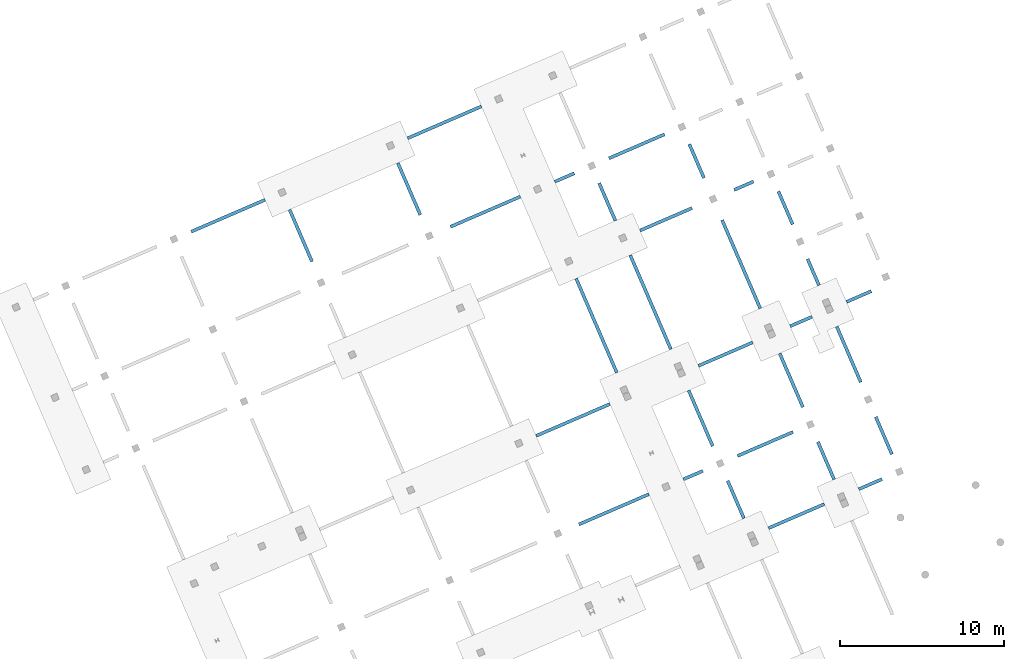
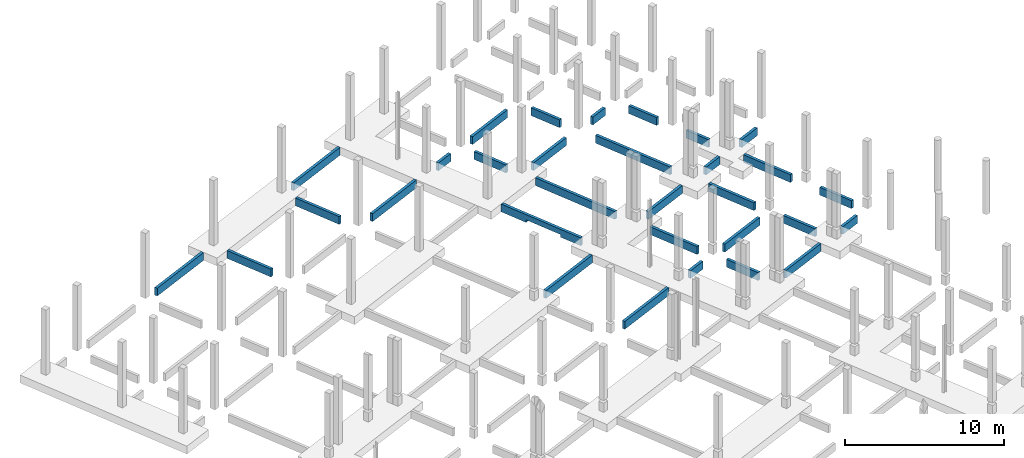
# One storey, part 10 of 11: 31 beams.
"""IFC4 building model written with IfcOpenShell, lengths in metres."""

from ifc_helpers import new_model, entity, si_unit, converted_unit, derived_unit, direction, frame, origin, place, context, subcontext, project, spatial, indexed_curve, outline, extrude, source, transform, mapped, material, type_object, type_shapes, element, save


model = new_model("IFC4")

# Units and contexts
model_context = context("Model", 3, precision=1e-05, world=origin(), true_north=direction((6.12323399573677e-17, 1.0)))
body_context = subcontext(model_context, "Body", "Model", "MODEL_VIEW")
ifc_project = project(units=[si_unit("LENGTHUNIT", "METRE"), si_unit("AREAUNIT", "SQUARE_METRE"), si_unit("VOLUMEUNIT", "CUBIC_METRE"), converted_unit("PLANEANGLEUNIT", "DEGREE", entity("IfcPlaneAngleMeasure", 0.0174532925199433), si_unit("PLANEANGLEUNIT", "RADIAN"), dimensions=[0, 0, 0, 0, 0, 0, 0]), si_unit("MASSUNIT", "GRAM", prefix="KILO"), derived_unit("MOMENTOFINERTIAUNIT", [(si_unit("LENGTHUNIT", "METRE"), 4)]), derived_unit("LINEARFORCEUNIT", [(si_unit("MASSUNIT", "GRAM", prefix="KILO"), 1), (si_unit("TIMEUNIT", "SECOND"), -2)]), derived_unit("WARPINGCONSTANTUNIT", [(si_unit("LENGTHUNIT", "METRE"), 6)]), derived_unit("THERMALTRANSMITTANCEUNIT", [(si_unit("MASSUNIT", "GRAM", prefix="KILO"), 1), (si_unit("THERMODYNAMICTEMPERATUREUNIT", "KELVIN"), -1), (si_unit("TIMEUNIT", "SECOND"), -3)]), derived_unit("USERDEFINED", [(si_unit("MASSUNIT", "GRAM", prefix="KILO"), 1), (si_unit("TIMEUNIT", "SECOND"), -2), (si_unit("THERMODYNAMICTEMPERATUREUNIT", "KELVIN"), -1)]), derived_unit("THERMALRESISTANCEUNIT", [(si_unit("MASSUNIT", "GRAM", prefix="KILO"), -1), (si_unit("TIMEUNIT", "SECOND"), 3), (si_unit("THERMODYNAMICTEMPERATUREUNIT", "KELVIN"), 1)])], contexts=[model_context])

# Site, building, storey
site_placement = place(None, origin())
site = spatial("IfcSite", under=ifc_project, at=site_placement, Name="Default", CompositionType="ELEMENT")
building_placement = place(site_placement, frame((12.6613425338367, -82.5732315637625, 317.15), z_axis=(0.0, 0.0, 1.0), x_axis=(-0.396377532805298, 0.918087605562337, 0.0)))
building = spatial("IfcBuilding", under=site, at=building_placement, Name="CESFAM Coyhaique", CompositionType="ELEMENT")
storey_placement = place(building_placement, frame((0.0, 0.0, -0.950000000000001)))
storey = spatial("IfcBuildingStorey", under=building, at=storey_placement, Name="d_Fundaciones", CompositionType="ELEMENT", Elevation=-0.950000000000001)

# Beams
ifc_material = material(Name="HA")
beam_type_1 = type_object("IfcBeamType", Name="M_Concrete-Rectangular Beam:200 x 600mm", PredefinedType="BEAM", material=ifc_material)
shared_shape_1 = source(origin(), body_context, "Body", "SweptSolid", [
    extrude(outline(indexed_curve([(-0.100000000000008, -0.3), (0.0999999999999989, -0.3), (0.0999999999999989, 0.3), (-0.100000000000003, 0.3), (-0.100000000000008, -0.3)], self_intersect=False)), frame((28.7688534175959, -10.4471495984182, -1.25), z_axis=(0.0, 1.0, 0.0), x_axis=(-1.0, 0.0, 0.0)), (0.0, 0.0, 1.0), 4.65000000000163),
])
type_shapes(beam_type_1, [shared_shape_1])
beam_1_placement = place(storey_placement, frame((0.0, 0.0, 0.950000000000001)))
element("IfcBeam", 1, at=beam_1_placement, inside=storey, type_object=beam_type_1, Name="M_Concrete-Rectangular Beam:200 x 600mm", ObjectType="M_Concrete-Rectangular Beam:200 x 600mm", PredefinedType="BEAM", context=body_context, shape_type="MappedRepresentation", body=[
    mapped(shared_shape_1, transform((0.0, 0.0, 0.0), scale=1.0)),
])
beam_type_2 = type_object("IfcBeamType", Name="M_Concrete-Rectangular Beam:200 x 600mm", PredefinedType="BEAM", material=ifc_material)
shared_shape_2 = source(origin(), body_context, "Body", "SweptSolid", [
    extrude(outline(indexed_curve([(-0.100000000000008, -0.3), (0.0999999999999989, -0.3), (0.100000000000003, 0.3), (-0.100000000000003, 0.3), (-0.100000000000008, -0.3)], self_intersect=False)), frame((34.768853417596, -10.4471495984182, -1.25), z_axis=(0.0, 1.0, 0.0), x_axis=(-1.0, 0.0, 0.0)), (0.0, 0.0, 1.0), 4.90000000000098),
])
type_shapes(beam_type_2, [shared_shape_2])
beam_2_placement = place(storey_placement, frame((0.0, 0.0, 0.950000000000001)))
element("IfcBeam", 2, at=beam_2_placement, inside=storey, type_object=beam_type_2, Name="M_Concrete-Rectangular Beam:200 x 600mm", ObjectType="M_Concrete-Rectangular Beam:200 x 600mm", PredefinedType="BEAM", context=body_context, shape_type="MappedRepresentation", body=[
    mapped(shared_shape_2, transform((0.0, 0.0, 0.0), scale=1.0)),
])
beam_type_3 = type_object("IfcBeamType", Name="M_Concrete-Rectangular Beam:200 x 600mm", PredefinedType="BEAM", material=ifc_material)
shared_shape_3 = source(origin(), body_context, "Body", "SweptSolid", [
    extrude(outline(indexed_curve([(-0.100000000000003, -0.3), (0.0999999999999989, -0.3), (0.100000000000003, 0.3), (-0.100000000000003, 0.3), (-0.100000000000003, -0.3)], self_intersect=False)), frame((28.7688534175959, -14.0471495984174, -1.25), z_axis=(0.0, 1.0, 0.0), x_axis=(-1.0, 0.0, 0.0)), (0.0, 0.0, 1.0), 1.30000000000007),
])
type_shapes(beam_type_3, [shared_shape_3])
beam_3_placement = place(storey_placement, frame((0.0, 0.0, 0.950000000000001)))
element("IfcBeam", 3, at=beam_3_placement, inside=storey, type_object=beam_type_3, Name="M_Concrete-Rectangular Beam:200 x 600mm", ObjectType="M_Concrete-Rectangular Beam:200 x 600mm", PredefinedType="BEAM", context=body_context, shape_type="MappedRepresentation", body=[
    mapped(shared_shape_3, transform((0.0, 0.0, 0.0), scale=1.0)),
])
beam_type_4 = type_object("IfcBeamType", Name="M_Concrete-Rectangular Beam:200 x 600mm", PredefinedType="BEAM", material=ifc_material)
shared_shape_4 = source(origin(), body_context, "Body", "SweptSolid", [
    extrude(outline(indexed_curve([(-0.3, -0.100000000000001), (0.3, -0.100000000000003), (0.3, 0.100000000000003), (-0.3, 0.100000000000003), (-0.3, -0.100000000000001)], self_intersect=False)), frame((25.1188534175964, -15.1971495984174, -1.25), z_axis=(1.0, 0.0, 0.0), x_axis=(0.0, 0.0, -1.0)), (0.0, 0.0, 1.0), 2.49999999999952),
])
type_shapes(beam_type_4, [shared_shape_4])
beam_4_placement = place(storey_placement, frame((0.0, 0.0, 0.950000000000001)))
element("IfcBeam", 4, at=beam_4_placement, inside=storey, type_object=beam_type_4, Name="M_Concrete-Rectangular Beam:200 x 600mm", ObjectType="M_Concrete-Rectangular Beam:200 x 600mm", PredefinedType="BEAM", context=body_context, shape_type="MappedRepresentation", body=[
    mapped(shared_shape_4, transform((0.0, 0.0, 0.0), scale=1.0)),
])
beam_type_5 = type_object("IfcBeamType", Name="M_Concrete-Rectangular Beam:200 x 600mm", PredefinedType="BEAM", material=ifc_material)
shared_shape_5 = source(origin(), body_context, "Body", "SweptSolid", [
    extrude(outline(indexed_curve([(-0.3, -0.100000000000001), (0.3, -0.100000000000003), (0.3, 0.100000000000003), (-0.3, 0.100000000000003), (-0.3, -0.100000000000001)], self_intersect=False)), frame((29.9188534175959, -15.1971495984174, -1.25), z_axis=(1.0, 0.0, 0.0), x_axis=(0.0, 0.0, -1.0)), (0.0, 0.0, 1.0), 3.70000000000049),
])
type_shapes(beam_type_5, [shared_shape_5])
beam_5_placement = place(storey_placement, frame((0.0, 0.0, 0.950000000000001)))
element("IfcBeam", 5, at=beam_5_placement, inside=storey, type_object=beam_type_5, Name="M_Concrete-Rectangular Beam:200 x 600mm", ObjectType="M_Concrete-Rectangular Beam:200 x 600mm", PredefinedType="BEAM", context=body_context, shape_type="MappedRepresentation", body=[
    mapped(shared_shape_5, transform((0.0, 0.0, 0.0), scale=1.0)),
])
beam_type_6 = type_object("IfcBeamType", Name="M_Concrete-Rectangular Beam:200 x 600mm", PredefinedType="BEAM", material=ifc_material)
shared_shape_6 = source(origin(), body_context, "Body", "SweptSolid", [
    extrude(outline(indexed_curve([(-0.0999999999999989, -0.3), (0.100000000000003, -0.3), (0.100000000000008, 0.3), (-0.0999999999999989, 0.3), (-0.0999999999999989, -0.3)], self_intersect=False)), frame((28.7688534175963, -20.047149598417, -1.25), z_axis=(0.0, 1.0, 0.0), x_axis=(-1.0, 0.0, 0.0)), (0.0, 0.0, 1.0), 3.69999999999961),
])
type_shapes(beam_type_6, [shared_shape_6])
beam_6_placement = place(storey_placement, frame((0.0, 0.0, 0.950000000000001)))
element("IfcBeam", 6, at=beam_6_placement, inside=storey, type_object=beam_type_6, Name="M_Concrete-Rectangular Beam:200 x 600mm", ObjectType="M_Concrete-Rectangular Beam:200 x 600mm", PredefinedType="BEAM", context=body_context, shape_type="MappedRepresentation", body=[
    mapped(shared_shape_6, transform((0.0, 0.0, 0.0), scale=1.0)),
])
beam_type_7 = type_object("IfcBeamType", Name="M_Concrete-Rectangular Beam:200 x 600mm", PredefinedType="BEAM", material=ifc_material)
shared_shape_7 = source(origin(), body_context, "Body", "SweptSolid", [
    extrude(outline(indexed_curve([(-0.0999999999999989, -0.3), (0.100000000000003, -0.3), (0.100000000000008, 0.3), (-0.0999999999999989, 0.3), (-0.0999999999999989, -0.3)], self_intersect=False)), frame((23.9688534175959, -16.3471495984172, -1.25), z_axis=(0.0, -1.0, 0.0), x_axis=(-1.0, 0.0, 0.0)), (0.0, 0.0, 1.0), 3.70000000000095),
])
type_shapes(beam_type_7, [shared_shape_7])
beam_7_placement = place(storey_placement, frame((0.0, 0.0, 0.950000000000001)))
element("IfcBeam", 7, at=beam_7_placement, inside=storey, type_object=beam_type_7, Name="M_Concrete-Rectangular Beam:200 x 600mm", ObjectType="M_Concrete-Rectangular Beam:200 x 600mm", PredefinedType="BEAM", context=body_context, shape_type="MappedRepresentation", body=[
    mapped(shared_shape_7, transform((0.0, 0.0, 0.0), scale=1.0)),
])
beam_type_8 = type_object("IfcBeamType", Name="M_Concrete-Rectangular Beam:200 x 600mm", PredefinedType="BEAM", material=ifc_material)
shared_shape_8 = source(origin(), body_context, "Body", "SweptSolid", [
    extrude(outline(indexed_curve([(-0.0999999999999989, -0.3), (0.100000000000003, -0.3), (0.100000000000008, 0.3), (-0.0999999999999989, 0.3), (-0.0999999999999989, -0.3)], self_intersect=False)), frame((34.768853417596, -16.3471495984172, -1.25), z_axis=(0.0, -1.0, 0.0), x_axis=(-1.0, 0.0, 0.0)), (0.0, 0.0, 1.0), 3.60000015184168),
])
type_shapes(beam_type_8, [shared_shape_8])
beam_8_placement = place(storey_placement, frame((0.0, 0.0, 0.950000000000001)))
element("IfcBeam", 8, at=beam_8_placement, inside=storey, type_object=beam_type_8, Name="M_Concrete-Rectangular Beam:200 x 600mm", ObjectType="M_Concrete-Rectangular Beam:200 x 600mm", PredefinedType="BEAM", context=body_context, shape_type="MappedRepresentation", body=[
    mapped(shared_shape_8, transform((0.0, 0.0, 0.0), scale=1.0)),
])
beam_type_9 = type_object("IfcBeamType", Name="M_Concrete-Rectangular Beam:200 x 600mm", PredefinedType="BEAM", material=ifc_material)
shared_shape_9 = source(origin(), body_context, "Body", "SweptSolid", [
    extrude(outline(indexed_curve([(-0.3, -0.0999999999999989), (0.3, -0.100000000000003), (0.3, 0.100000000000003), (-0.3, 0.100000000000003), (-0.3, -0.0999999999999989)], self_intersect=False)), frame((29.9188534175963, -21.197149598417, -1.25), z_axis=(1.0, 0.0, 0.0), x_axis=(0.0, 0.0, -1.0)), (0.0, 0.0, 1.0), 3.57500000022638),
])
type_shapes(beam_type_9, [shared_shape_9])
beam_9_placement = place(storey_placement, frame((0.0, 0.0, 0.950000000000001)))
element("IfcBeam", 9, at=beam_9_placement, inside=storey, type_object=beam_type_9, Name="M_Concrete-Rectangular Beam:200 x 600mm", ObjectType="M_Concrete-Rectangular Beam:200 x 600mm", PredefinedType="BEAM", context=body_context, shape_type="MappedRepresentation", body=[
    mapped(shared_shape_9, transform((0.0, 0.0, 0.0), scale=1.0)),
])
beam_type_10 = type_object("IfcBeamType", Name="M_Concrete-Rectangular Beam:200 x 600mm", PredefinedType="BEAM", material=ifc_material)
shared_shape_10 = source(origin(), body_context, "Body", "SweptSolid", [
    extrude(outline(indexed_curve([(-0.3, -0.0999999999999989), (0.3, -0.0999999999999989), (0.3, 0.100000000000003), (-0.3, 0.100000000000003), (-0.3, -0.0999999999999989)], self_intersect=False)), frame((25.1188534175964, -21.197149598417, -1.25), z_axis=(1.0, 0.0, 0.0), x_axis=(0.0, 0.0, -1.0)), (0.0, 0.0, 1.0), 2.49999999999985),
])
type_shapes(beam_type_10, [shared_shape_10])
beam_10_placement = place(storey_placement, frame((0.0, 0.0, 0.950000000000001)))
element("IfcBeam", 10, at=beam_10_placement, inside=storey, type_object=beam_type_10, Name="M_Concrete-Rectangular Beam:200 x 600mm", ObjectType="M_Concrete-Rectangular Beam:200 x 600mm", PredefinedType="BEAM", context=body_context, shape_type="MappedRepresentation", body=[
    mapped(shared_shape_10, transform((0.0, 0.0, 0.0), scale=1.0)),
])
beam_type_11 = type_object("IfcBeamType", Name="M_Concrete-Rectangular Beam:200 x 600mm", PredefinedType="BEAM", material=ifc_material)
shared_shape_11 = source(origin(), body_context, "Body", "SweptSolid", [
    extrude(outline(indexed_curve([(-0.100000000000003, -0.3), (0.0999999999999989, -0.3), (0.100000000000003, 0.3), (-0.100000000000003, 0.3), (-0.100000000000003, -0.3)], self_intersect=False)), frame((23.9688534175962, -22.3471495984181, -1.25), z_axis=(0.0, -1.0, 0.0), x_axis=(-1.0, 0.0, 0.0)), (0.0, 0.0, 1.0), 1.54999999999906),
])
type_shapes(beam_type_11, [shared_shape_11])
beam_11_placement = place(storey_placement, frame((0.0, 0.0, 0.950000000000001)))
element("IfcBeam", 11, at=beam_11_placement, inside=storey, type_object=beam_type_11, Name="M_Concrete-Rectangular Beam:200 x 600mm", ObjectType="M_Concrete-Rectangular Beam:200 x 600mm", PredefinedType="BEAM", context=body_context, shape_type="MappedRepresentation", body=[
    mapped(shared_shape_11, transform((0.0, 0.0, 0.0), scale=1.0)),
])
beam_type_12 = type_object("IfcBeamType", Name="M_Concrete-Rectangular Beam:200 x 600mm", PredefinedType="BEAM", material=ifc_material)
shared_shape_12 = source(origin(), body_context, "Body", "SweptSolid", [
    extrude(outline(indexed_curve([(-0.3, -0.0999999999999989), (0.3, -0.100000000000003), (0.3, 0.100000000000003), (-0.3, 0.100000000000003), (-0.3, -0.0999999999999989)], self_intersect=False)), frame((25.1188534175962, -25.0471495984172, -1.25), z_axis=(1.0, 0.0, 0.0), x_axis=(0.0, 0.0, -1.0)), (0.0, 0.0, 1.0), 2.50000000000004),
])
type_shapes(beam_type_12, [shared_shape_12])
beam_12_placement = place(storey_placement, frame((0.0, 0.0, 0.950000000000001)))
element("IfcBeam", 12, at=beam_12_placement, inside=storey, type_object=beam_type_12, Name="M_Concrete-Rectangular Beam:200 x 600mm", ObjectType="M_Concrete-Rectangular Beam:200 x 600mm", PredefinedType="BEAM", context=body_context, shape_type="MappedRepresentation", body=[
    mapped(shared_shape_12, transform((0.0, 0.0, 0.0), scale=1.0)),
])
beam_type_13 = type_object("IfcBeamType", Name="M_Concrete-Rectangular Beam:200 x 600mm", PredefinedType="BEAM", material=ifc_material)
shared_shape_13 = source(origin(), body_context, "Body", "SweptSolid", [
    extrude(outline(indexed_curve([(-0.3, -0.0999999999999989), (0.3, -0.100000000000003), (0.3, 0.100000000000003), (-0.3, 0.100000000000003), (-0.3, -0.0999999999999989)], self_intersect=False)), frame((29.9188534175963, -25.0471495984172, -1.25), z_axis=(1.0, 0.0, 0.0), x_axis=(0.0, 0.0, -1.0)), (0.0, 0.0, 1.0), 3.7000000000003),
])
type_shapes(beam_type_13, [shared_shape_13])
beam_13_placement = place(storey_placement, frame((0.0, 0.0, 0.950000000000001)))
element("IfcBeam", 13, at=beam_13_placement, inside=storey, type_object=beam_type_13, Name="M_Concrete-Rectangular Beam:200 x 600mm", ObjectType="M_Concrete-Rectangular Beam:200 x 600mm", PredefinedType="BEAM", context=body_context, shape_type="MappedRepresentation", body=[
    mapped(shared_shape_13, transform((0.0, 0.0, 0.0), scale=1.0)),
])
beam_type_14 = type_object("IfcBeamType", Name="M_Concrete-Rectangular Beam:200 x 600mm", PredefinedType="BEAM", material=ifc_material)
shared_shape_14 = source(origin(), body_context, "Body", "SweptSolid", [
    extrude(outline(indexed_curve([(-0.100000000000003, -0.3), (0.0999999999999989, -0.3), (0.100000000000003, 0.3), (-0.100000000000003, 0.3), (-0.100000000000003, -0.3)], self_intersect=False)), frame((34.7688534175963, -22.4471497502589, -1.25), z_axis=(0.0, -1.0, 0.0), x_axis=(-1.0, 0.0, 0.0)), (0.0, 0.0, 1.0), 1.44999984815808),
])
type_shapes(beam_type_14, [shared_shape_14])
beam_14_placement = place(storey_placement, frame((0.0, 0.0, 0.950000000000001)))
element("IfcBeam", 14, at=beam_14_placement, inside=storey, type_object=beam_type_14, Name="M_Concrete-Rectangular Beam:200 x 600mm", ObjectType="M_Concrete-Rectangular Beam:200 x 600mm", PredefinedType="BEAM", context=body_context, shape_type="MappedRepresentation", body=[
    mapped(shared_shape_14, transform((0.0, 0.0, 0.0), scale=1.0)),
])
beam_type_15 = type_object("IfcBeamType", Name="M_Concrete-Rectangular Beam:200 x 600mm", PredefinedType="BEAM", material=ifc_material)
shared_shape_15 = source(origin(), body_context, "Body", "SweptSolid", [
    extrude(outline(indexed_curve([(-0.100000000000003, -0.3), (0.0999999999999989, -0.3), (0.100000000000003, 0.3), (-0.100000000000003, 0.3), (-0.100000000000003, -0.3)], self_intersect=False)), frame((34.7688534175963, -26.1971495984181, -1.25), z_axis=(0.0, -1.0, 0.0), x_axis=(-1.0, 0.0, 0.0)), (0.0, 0.0, 1.0), 1.64999999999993),
])
type_shapes(beam_type_15, [shared_shape_15])
beam_15_placement = place(storey_placement, frame((0.0, 0.0, 0.950000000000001)))
element("IfcBeam", 15, at=beam_15_placement, inside=storey, type_object=beam_type_15, Name="M_Concrete-Rectangular Beam:200 x 600mm", ObjectType="M_Concrete-Rectangular Beam:200 x 600mm", PredefinedType="BEAM", context=body_context, shape_type="MappedRepresentation", body=[
    mapped(shared_shape_15, transform((0.0, 0.0, 0.0), scale=1.0)),
])
beam_type_16 = type_object("IfcBeamType", Name="M_Concrete-Rectangular Beam:200 x 600mm", PredefinedType="BEAM", material=ifc_material)
shared_shape_16 = source(origin(), body_context, "Body", "SweptSolid", [
    extrude(outline(indexed_curve([(-0.100000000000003, -0.3), (0.100000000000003, -0.3), (0.100000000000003, 0.3), (-0.100000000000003, 0.3), (-0.100000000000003, -0.3)], self_intersect=False)), frame((54.5688534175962, 8.8528504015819, -1.25), z_axis=(0.0, -1.0, 0.0), x_axis=(-1.0, 0.0, 0.0)), (0.0, 0.0, 1.0), 4.89999999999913),
])
type_shapes(beam_type_16, [shared_shape_16])
beam_16_placement = place(storey_placement, frame((0.0, 0.0, 0.950000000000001)))
element("IfcBeam", 16, at=beam_16_placement, inside=storey, type_object=beam_type_16, Name="M_Concrete-Rectangular Beam:200 x 600mm", ObjectType="M_Concrete-Rectangular Beam:200 x 600mm", PredefinedType="BEAM", context=body_context, shape_type="MappedRepresentation", body=[
    mapped(shared_shape_16, transform((0.0, 0.0, 0.0), scale=1.0)),
])
beam_type_17 = type_object("IfcBeamType", Name="M_Concrete-Rectangular Beam:200 x 600mm", PredefinedType="BEAM", material=ifc_material)
shared_shape_17 = source(origin(), body_context, "Body", "SweptSolid", [
    extrude(outline(indexed_curve([(-0.3, -0.100000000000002), (0.3, -0.100000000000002), (0.3, 0.100000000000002), (-0.3, 0.100000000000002), (-0.3, -0.100000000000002)], self_intersect=False)), frame((49.9688534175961, 2.80285040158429, -1.25), z_axis=(1.0, 0.0, 0.0), x_axis=(0.0, 0.0, -1.0)), (0.0, 0.0, 1.0), 3.45000000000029),
])
type_shapes(beam_type_17, [shared_shape_17])
beam_17_placement = place(storey_placement, frame((0.0, 0.0, 0.950000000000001)))
element("IfcBeam", 17, at=beam_17_placement, inside=storey, type_object=beam_type_17, Name="M_Concrete-Rectangular Beam:200 x 600mm", ObjectType="M_Concrete-Rectangular Beam:200 x 600mm", PredefinedType="BEAM", context=body_context, shape_type="MappedRepresentation", body=[
    mapped(shared_shape_17, transform((0.0, 0.0, 0.0), scale=1.0)),
])
beam_type_18 = type_object("IfcBeamType", Name="M_Concrete-Rectangular Beam:200 x 600mm", PredefinedType="BEAM", material=ifc_material)
shared_shape_18 = source(origin(), body_context, "Body", "SweptSolid", [
    extrude(outline(indexed_curve([(-0.3, -0.100000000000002), (0.3, -0.100000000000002), (0.3, 0.100000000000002), (-0.3, 0.100000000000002), (-0.3, -0.100000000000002)], self_intersect=False)), frame((49.9688534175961, -4.39714959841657, -1.25), z_axis=(1.0, 0.0, 0.0), x_axis=(0.0, 0.0, -1.0)), (0.0, 0.0, 1.0), 3.45000000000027),
])
type_shapes(beam_type_18, [shared_shape_18])
beam_18_placement = place(storey_placement, frame((0.0, 0.0, 0.950000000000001)))
element("IfcBeam", 18, at=beam_18_placement, inside=storey, type_object=beam_type_18, Name="M_Concrete-Rectangular Beam:200 x 600mm", ObjectType="M_Concrete-Rectangular Beam:200 x 600mm", PredefinedType="BEAM", context=body_context, shape_type="MappedRepresentation", body=[
    mapped(shared_shape_18, transform((0.0, 0.0, 0.0), scale=1.0)),
])
beam_type_19 = type_object("IfcBeamType", Name="M_Concrete-Rectangular Beam:200 x 600mm", PredefinedType="BEAM", material=ifc_material)
shared_shape_19 = source(origin(), body_context, "Body", "SweptSolid", [
    extrude(outline(indexed_curve([(-0.100000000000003, -0.3), (0.100000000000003, -0.3), (0.100000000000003, 0.3), (-0.100000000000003, 0.3), (-0.100000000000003, -0.3)], self_intersect=False)), frame((48.5688534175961, -10.4471495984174, -1.25), z_axis=(0.0, 1.0, 0.0), x_axis=(-1.0, 0.0, 0.0)), (0.0, 0.0, 1.0), 4.6500000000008),
])
type_shapes(beam_type_19, [shared_shape_19])
beam_19_placement = place(storey_placement, frame((0.0, 0.0, 0.950000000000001)))
element("IfcBeam", 19, at=beam_19_placement, inside=storey, type_object=beam_type_19, Name="M_Concrete-Rectangular Beam:200 x 600mm", ObjectType="M_Concrete-Rectangular Beam:200 x 600mm", PredefinedType="BEAM", context=body_context, shape_type="MappedRepresentation", body=[
    mapped(shared_shape_19, transform((0.0, 0.0, 0.0), scale=1.0)),
])
beam_type_20 = type_object("IfcBeamType", Name="M_Concrete-Rectangular Beam:200 x 600mm", PredefinedType="BEAM", material=ifc_material)
shared_shape_20 = source(origin(), body_context, "Body", "SweptSolid", [
    extrude(outline(indexed_curve([(-0.100000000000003, -0.3), (0.100000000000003, -0.3), (0.100000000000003, 0.3), (-0.100000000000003, 0.3), (-0.100000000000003, -0.3)], self_intersect=False)), frame((54.5688534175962, -10.4471495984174, -1.25), z_axis=(0.0, 1.0, 0.0), x_axis=(-1.0, 0.0, 0.0)), (0.0, 0.0, 1.0), 4.90000000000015),
])
type_shapes(beam_type_20, [shared_shape_20])
beam_20_placement = place(storey_placement, frame((0.0, 0.0, 0.950000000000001)))
element("IfcBeam", 20, at=beam_20_placement, inside=storey, type_object=beam_type_20, Name="M_Concrete-Rectangular Beam:200 x 600mm", ObjectType="M_Concrete-Rectangular Beam:200 x 600mm", PredefinedType="BEAM", context=body_context, shape_type="MappedRepresentation", body=[
    mapped(shared_shape_20, transform((0.0, 0.0, 0.0), scale=1.0)),
])
beam_type_21 = type_object("IfcBeamType", Name="M_Concrete-Rectangular Beam:200 x 600mm", PredefinedType="BEAM", material=ifc_material)
shared_shape_21 = source(origin(), body_context, "Body", "SweptSolid", [
    extrude(outline(indexed_curve([(-0.100000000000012, -0.3), (0.0999999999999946, -0.3), (0.100000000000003, 0.3), (-0.100000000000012, 0.3), (-0.100000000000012, -0.3)], self_intersect=False)), frame((48.5688534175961, -14.0471495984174, -1.25), z_axis=(0.0, 1.0, 0.0), x_axis=(-1.0, 0.0, 0.0)), (0.0, 0.0, 1.0), 1.30000000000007),
])
type_shapes(beam_type_21, [shared_shape_21])
beam_21_placement = place(storey_placement, frame((0.0, 0.0, 0.950000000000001)))
element("IfcBeam", 21, at=beam_21_placement, inside=storey, type_object=beam_type_21, Name="M_Concrete-Rectangular Beam:200 x 600mm", ObjectType="M_Concrete-Rectangular Beam:200 x 600mm", PredefinedType="BEAM", context=body_context, shape_type="MappedRepresentation", body=[
    mapped(shared_shape_21, transform((0.0, 0.0, 0.0), scale=1.0)),
])
beam_type_22 = type_object("IfcBeamType", Name="M_Concrete-Rectangular Beam:200 x 600mm", PredefinedType="BEAM", material=ifc_material)
shared_shape_22 = source(origin(), body_context, "Body", "SweptSolid", [
    extrude(outline(indexed_curve([(-0.3, -0.100000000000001), (0.3, -0.100000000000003), (0.3, 0.100000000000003), (-0.3, 0.100000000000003), (-0.3, -0.100000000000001)], self_intersect=False)), frame((44.9188534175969, -15.1971495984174, -1.25), z_axis=(1.0, 0.0, 0.0), x_axis=(0.0, 0.0, -1.0)), (0.0, 0.0, 1.0), 2.49999999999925),
])
type_shapes(beam_type_22, [shared_shape_22])
beam_22_placement = place(storey_placement, frame((0.0, 0.0, 0.950000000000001)))
element("IfcBeam", 22, at=beam_22_placement, inside=storey, type_object=beam_type_22, Name="M_Concrete-Rectangular Beam:200 x 600mm", ObjectType="M_Concrete-Rectangular Beam:200 x 600mm", PredefinedType="BEAM", context=body_context, shape_type="MappedRepresentation", body=[
    mapped(shared_shape_22, transform((0.0, 0.0, 0.0), scale=1.0)),
])
beam_type_23 = type_object("IfcBeamType", Name="M_Concrete-Rectangular Beam:200 x 600mm", PredefinedType="BEAM", material=ifc_material)
shared_shape_23 = source(origin(), body_context, "Body", "SweptSolid", [
    extrude(outline(indexed_curve([(-0.100000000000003, -0.3), (0.100000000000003, -0.3), (0.100000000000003, 0.3), (-0.100000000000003, 0.3), (-0.100000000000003, -0.3)], self_intersect=False)), frame((48.5688534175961, -16.3471495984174, -1.25), z_axis=(0.0, -1.0, 0.0), x_axis=(-1.0, 0.0, 0.0)), (0.0, 0.0, 1.0), 3.69999999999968),
])
type_shapes(beam_type_23, [shared_shape_23])
beam_23_placement = place(storey_placement, frame((0.0, 0.0, 0.950000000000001)))
element("IfcBeam", 23, at=beam_23_placement, inside=storey, type_object=beam_type_23, Name="M_Concrete-Rectangular Beam:200 x 600mm", ObjectType="M_Concrete-Rectangular Beam:200 x 600mm", PredefinedType="BEAM", context=body_context, shape_type="MappedRepresentation", body=[
    mapped(shared_shape_23, transform((0.0, 0.0, 0.0), scale=1.0)),
])
beam_type_24 = type_object("IfcBeamType", Name="M_Concrete-Rectangular Beam:200 x 600mm", PredefinedType="BEAM", material=ifc_material)
shared_shape_24 = source(origin(), body_context, "Body", "SweptSolid", [
    extrude(outline(indexed_curve([(-0.100000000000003, -0.3), (0.100000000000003, -0.3), (0.100000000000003, 0.3), (-0.100000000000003, 0.3), (-0.100000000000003, -0.3)], self_intersect=False)), frame((43.7688534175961, -16.3471495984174, -1.25), z_axis=(0.0, -1.0, 0.0), x_axis=(-1.0, 0.0, 0.0)), (0.0, 0.0, 1.0), 3.44999999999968),
])
type_shapes(beam_type_24, [shared_shape_24])
beam_24_placement = place(storey_placement, frame((0.0, 0.0, 0.950000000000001)))
element("IfcBeam", 24, at=beam_24_placement, inside=storey, type_object=beam_type_24, Name="M_Concrete-Rectangular Beam:200 x 600mm", ObjectType="M_Concrete-Rectangular Beam:200 x 600mm", PredefinedType="BEAM", context=body_context, shape_type="MappedRepresentation", body=[
    mapped(shared_shape_24, transform((0.0, 0.0, 0.0), scale=1.0)),
])
beam_type_25 = type_object("IfcBeamType", Name="M_Concrete-Rectangular Beam:200 x 600mm", PredefinedType="BEAM", material=ifc_material)
shared_shape_25 = source(origin(), body_context, "Body", "SweptSolid", [
    extrude(outline(indexed_curve([(-0.3, -0.0999999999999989), (0.3, -0.0999999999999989), (0.3, 0.100000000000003), (-0.3, 0.100000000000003), (-0.3, -0.0999999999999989)], self_intersect=False)), frame((45.1688534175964, -21.197149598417, -1.25), z_axis=(1.0, 0.0, 0.0), x_axis=(0.0, 0.0, -1.0)), (0.0, 0.0, 1.0), 2.25000000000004),
])
type_shapes(beam_type_25, [shared_shape_25])
beam_25_placement = place(storey_placement, frame((0.0, 0.0, 0.950000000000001)))
element("IfcBeam", 25, at=beam_25_placement, inside=storey, type_object=beam_type_25, Name="M_Concrete-Rectangular Beam:200 x 600mm", ObjectType="M_Concrete-Rectangular Beam:200 x 600mm", PredefinedType="BEAM", context=body_context, shape_type="MappedRepresentation", body=[
    mapped(shared_shape_25, transform((0.0, 0.0, 0.0), scale=1.0)),
])
beam_type_26 = type_object("IfcBeamType", Name="M_Concrete-Rectangular Beam:200 x 600mm", PredefinedType="BEAM", material=ifc_material)
shared_shape_26 = source(origin(), body_context, "Body", "SweptSolid", [
    extrude(outline(indexed_curve([(-0.0999999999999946, -0.3), (0.100000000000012, -0.3), (0.100000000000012, 0.3), (-0.0999999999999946, 0.3), (-0.0999999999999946, -0.3)], self_intersect=False)), frame((43.7688534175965, -22.597149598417, -1.25), z_axis=(0.0, -1.0, 0.0), x_axis=(-1.0, 0.0, 0.0)), (0.0, 0.0, 1.0), 1.30000000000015),
])
type_shapes(beam_type_26, [shared_shape_26])
beam_26_placement = place(storey_placement, frame((0.0, 0.0, 0.950000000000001)))
element("IfcBeam", 26, at=beam_26_placement, inside=storey, type_object=beam_type_26, Name="M_Concrete-Rectangular Beam:200 x 600mm", ObjectType="M_Concrete-Rectangular Beam:200 x 600mm", PredefinedType="BEAM", context=body_context, shape_type="MappedRepresentation", body=[
    mapped(shared_shape_26, transform((0.0, 0.0, 0.0), scale=1.0)),
])
beam_type_27 = type_object("IfcBeamType", Name="M_Concrete-Rectangular Beam:200 x 600mm", PredefinedType="BEAM", material=ifc_material)
shared_shape_27 = source(origin(), body_context, "Body", "SweptSolid", [
    extrude(outline(indexed_curve([(-0.3, -0.0999999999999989), (0.3, -0.100000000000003), (0.3, 0.100000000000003), (-0.3, 0.100000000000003), (-0.3, -0.0999999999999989)], self_intersect=False)), frame((36.4938534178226, -21.197149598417, -1.25), z_axis=(1.0, 0.0, 0.0), x_axis=(0.0, 0.0, -1.0)), (0.0, 0.0, 1.0), 5.8749999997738),
])
type_shapes(beam_type_27, [shared_shape_27])
beam_27_placement = place(storey_placement, frame((0.0, 0.0, 0.950000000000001)))
element("IfcBeam", 27, at=beam_27_placement, inside=storey, type_object=beam_type_27, Name="M_Concrete-Rectangular Beam:200 x 600mm", ObjectType="M_Concrete-Rectangular Beam:200 x 600mm", PredefinedType="BEAM", context=body_context, shape_type="MappedRepresentation", body=[
    mapped(shared_shape_27, transform((0.0, 0.0, 0.0), scale=1.0)),
])
beam_type_28 = type_object("IfcBeamType", Name="M_Concrete-Rectangular Beam:200 x 600mm", PredefinedType="BEAM", material=ifc_material)
shared_shape_28 = source(origin(), body_context, "Body", "SweptSolid", [
    extrude(outline(indexed_curve([(-0.3, -0.0999999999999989), (0.3, -0.100000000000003), (0.3, 0.100000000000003), (-0.3, 0.100000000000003), (-0.3, -0.0999999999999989)], self_intersect=False)), frame((36.3688534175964, -25.0471495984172, -1.25), z_axis=(1.0, 0.0, 0.0), x_axis=(0.0, 0.0, -1.0)), (0.0, 0.0, 1.0), 1.75000000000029),
])
type_shapes(beam_type_28, [shared_shape_28])
beam_28_placement = place(storey_placement, frame((0.0, 0.0, 0.950000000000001)))
element("IfcBeam", 28, at=beam_28_placement, inside=storey, type_object=beam_type_28, Name="M_Concrete-Rectangular Beam:200 x 600mm", ObjectType="M_Concrete-Rectangular Beam:200 x 600mm", PredefinedType="BEAM", context=body_context, shape_type="MappedRepresentation", body=[
    mapped(shared_shape_28, transform((0.0, 0.0, 0.0), scale=1.0)),
])
beam_type_29 = type_object("IfcBeamType", Name="M_Concrete-Rectangular Beam:200 x 600mm", PredefinedType="BEAM", material=ifc_material)
shared_shape_29 = source(origin(), body_context, "Body", "SweptSolid", [
    extrude(outline(indexed_curve([(-0.3, -0.0999999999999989), (0.3, -0.100000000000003), (0.3, 0.100000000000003), (-0.3, 0.100000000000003), (-0.3, -0.0999999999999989)], self_intersect=False)), frame((40.4188534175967, -25.0471495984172, -1.25), z_axis=(1.0, 0.0, 0.0), x_axis=(0.0, 0.0, -1.0)), (0.0, 0.0, 1.0), 2.19999999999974),
])
type_shapes(beam_type_29, [shared_shape_29])
beam_29_placement = place(storey_placement, frame((0.0, 0.0, 0.950000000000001)))
element("IfcBeam", 29, at=beam_29_placement, inside=storey, type_object=beam_type_29, Name="M_Concrete-Rectangular Beam:200 x 600mm", ObjectType="M_Concrete-Rectangular Beam:200 x 600mm", PredefinedType="BEAM", context=body_context, shape_type="MappedRepresentation", body=[
    mapped(shared_shape_29, transform((0.0, 0.0, 0.0), scale=1.0)),
])
beam_type_30 = type_object("IfcBeamType", Name="M_Concrete-Rectangular Beam:200 x 600mm", PredefinedType="BEAM", material=ifc_material)
shared_shape_30 = source(origin(), body_context, "Body", "SweptSolid", [
    extrude(outline(indexed_curve([(-0.3, -0.100000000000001), (0.3, -0.100000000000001), (0.3, 0.100000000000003), (-0.3, 0.100000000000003), (-0.3, -0.100000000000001)], self_intersect=False)), frame((36.3688534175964, -15.1971495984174, -1.25), z_axis=(1.0, 0.0, 0.0), x_axis=(0.0, 0.0, -1.0)), (0.0, 0.0, 1.0), 6.25000000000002),
])
type_shapes(beam_type_30, [shared_shape_30])
beam_30_placement = place(storey_placement, frame((0.0, 0.0, 0.950000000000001)))
element("IfcBeam", 30, at=beam_30_placement, inside=storey, type_object=beam_type_30, Name="M_Concrete-Rectangular Beam:200 x 600mm", ObjectType="M_Concrete-Rectangular Beam:200 x 600mm", PredefinedType="BEAM", context=body_context, shape_type="MappedRepresentation", body=[
    mapped(shared_shape_30, transform((0.0, 0.0, 0.0), scale=1.0)),
])
beam_type_31 = type_object("IfcBeamType", Name="M_Concrete-Rectangular Beam:200 x 600mm", PredefinedType="BEAM", material=ifc_material)
shared_shape_31 = source(origin(), body_context, "Body", "SweptSolid", [
    extrude(outline(indexed_curve([(-3.21740172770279, -0.2), (-1.25755390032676, -0.2), (-1.25755390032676, 1.35358391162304e-15), (1.44235735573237, 1.35358391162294e-15), (1.44235735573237, -0.2), (3.03259827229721, -0.2), (3.03259827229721, 0.4), (-3.21740172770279, 0.4), (-3.21740172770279, -0.2)], self_intersect=False)), frame((39.4014516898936, -11.6971495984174, -1.35), z_axis=(0.0, 1.0, 0.0), x_axis=(-1.0, 0.0, 0.0)), (0.0, 0.0, 1.0), 0.200000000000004),
])
type_shapes(beam_type_31, [shared_shape_31])
beam_31_placement = place(storey_placement, frame((0.0, 0.0, 0.950000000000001)))
element("IfcBeam", 31, at=beam_31_placement, inside=storey, type_object=beam_type_31, Name="M_Concrete-Rectangular Beam:200 x 600mm", ObjectType="M_Concrete-Rectangular Beam:200 x 600mm", PredefinedType="BEAM", context=body_context, shape_type="MappedRepresentation", body=[
    mapped(shared_shape_31, transform((0.0, 0.0, 0.0), scale=1.0)),
])

save(model, "model.ifc")
